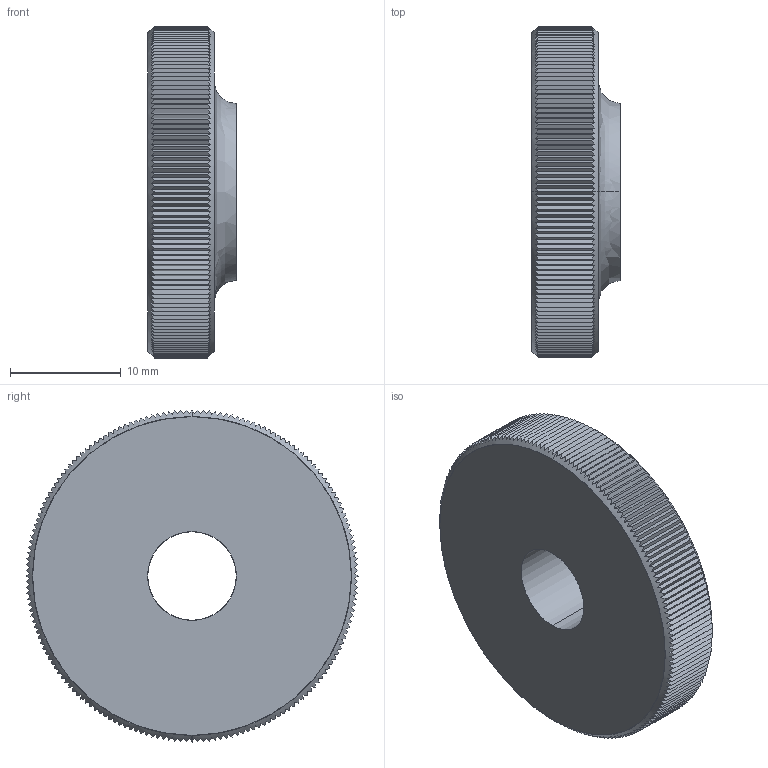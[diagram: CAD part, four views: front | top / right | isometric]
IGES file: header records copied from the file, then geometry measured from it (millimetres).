
Start section: SolidWorks IGES file using analytic representation for surfaces
Global section: file name: C:\Documents and Settings\IANO\Desktop\Temp File\Process pending\EXISTING\37120_v2\37120_v2_20170629_IGES\37120.W0008.igs; native system: SolidWorks 2009; preprocessor: SolidWorks 2009; author: IANO; date: 170627.122221; units: millimetre
Bounding box: 8 x 30 x 30 mm (x, y, z)
Surface area: 2304.1 mm2 (no closed solid volume)
Topology: 0 solids, 0 shells, 371 faces, 2444 edges, 2444 vertices
Faces by surface type: bspline 365, revolution 6
